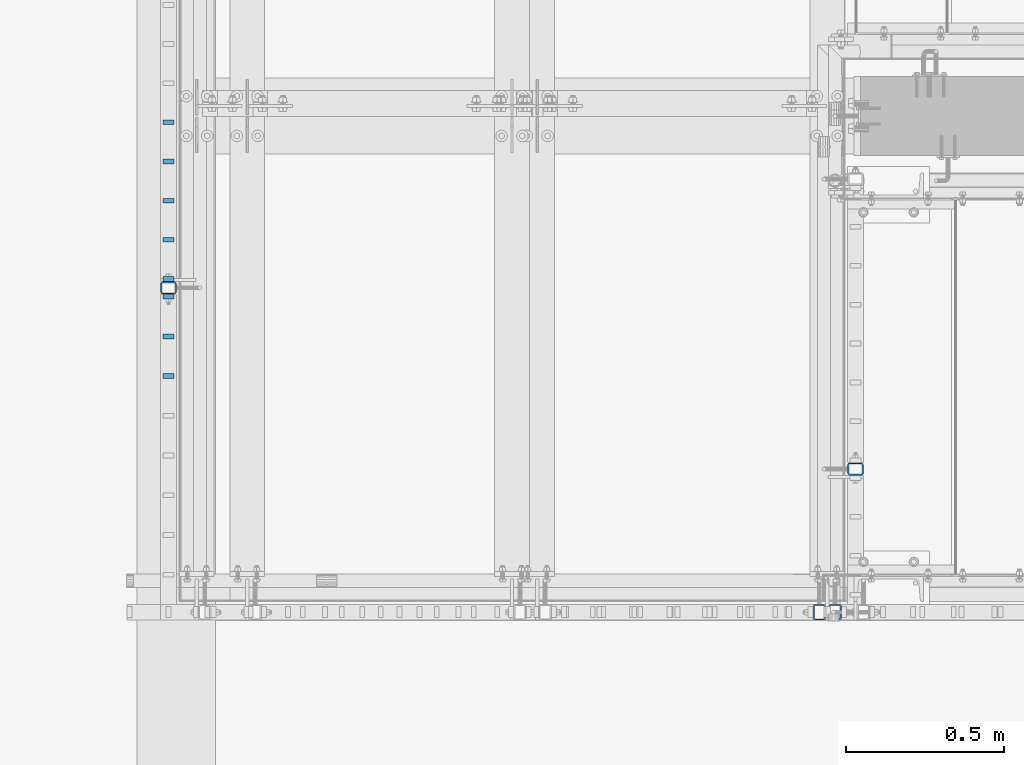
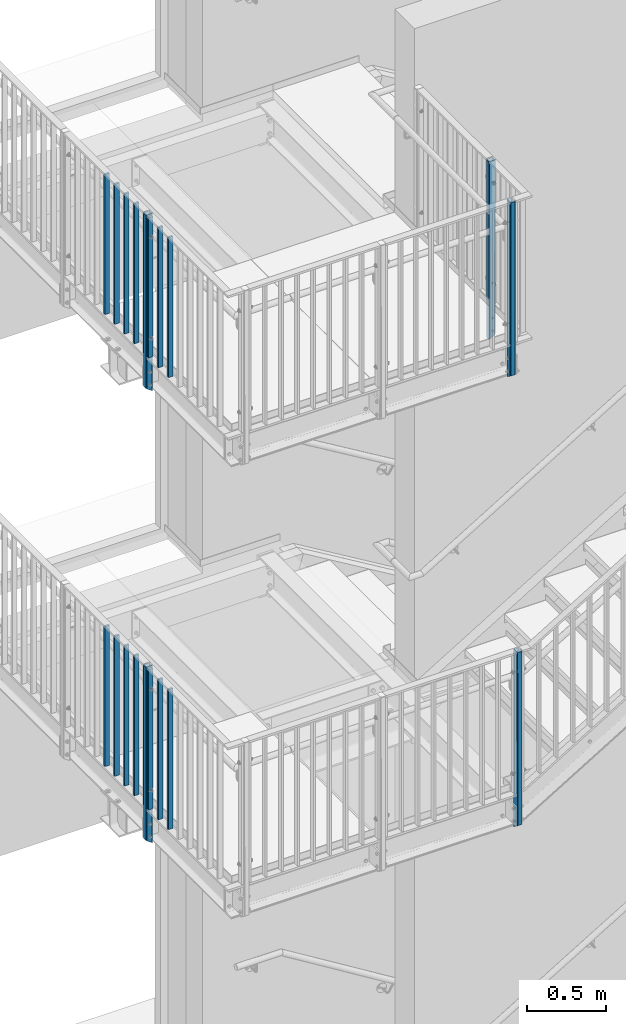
# One storey, part 3 of 410: 21 columns, 48 openings.
"""IFC2X3 building model written with IfcOpenShell, lengths in millimetres."""

from ifc_helpers import new_model, entity, si_unit, converted_unit, frame, frame_2d, origin, origin_with_axes, origin_2d, place, context, project, spatial, rectangle, hollow_rectangle, circle, extrude, clip, halfspace, material, element, save


model = new_model("IFC2X3")

# Units and contexts
model_context = context("Model", 3, precision=1e-09, world=origin_with_axes())
ifc_project = project(units=[si_unit("LENGTHUNIT", "METRE", prefix="MILLI"), si_unit("AREAUNIT", "SQUARE_METRE"), si_unit("VOLUMEUNIT", "CUBIC_METRE"), converted_unit("PLANEANGLEUNIT", "DEGREE", entity("IfcPlaneAngleMeasure", 0.01745329), si_unit("PLANEANGLEUNIT", "RADIAN"), dimensions=[0, 0, 0, 0, 0, 0, 0])], contexts=[model_context])

# Site, building, storey
site_placement = place(None, origin_with_axes())
site = spatial("IfcSite", under=ifc_project, at=site_placement, Name="mKR Teilneubau & Sanierung BA1 - Ostfildern", CompositionType="ELEMENT")
building_placement = place(site_placement, origin_with_axes())
building = spatial("IfcBuilding", under=site, at=building_placement, Name="Struktur 1", CompositionType="ELEMENT")
storey_placement = place(building_placement, origin_with_axes())
storey = spatial("IfcBuildingStorey", under=building, at=storey_placement, Name="Default Storey", CompositionType="ELEMENT", Elevation=0.0)

# Column, openings
ifc_material = material(Name="S235JR")
column_1_placement = place(None, frame((-3899.9485317, 16434.999999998, 8595.0), z_axis=(0.0, 0.0, 1.0), x_axis=(0.0, 1.0, 0.0)))
column_1 = element("IfcColumn", 1, at=column_1_placement, inside=storey, material=ifc_material, Name="-", ObjectType="-", context=model_context, shape_type="Clipping", body=[
    clip(extrude(hollow_rectangle(XDim=40.0, YDim=50.0, WallThickness=4.0, InnerFilletRadius=4.0, OuterFilletRadius=8.0, at=origin_2d()), origin(), (0.0, 0.0, -1.0), 1444.603221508), halfspace(frame((-16434.999999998, -6017.420426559, -5570.936734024), z_axis=(0.0, -0.573576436, 0.819152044), x_axis=(1.0, 0.0, 0.0)), True)),
])
opening_1_placement = place(column_1_placement, frame((-20.5, 0.0, -1265.0), z_axis=(1.0, 0.0, 0.0), x_axis=(0.0, 1.0, 0.0)))
element("IfcOpeningElement", 2, at=opening_1_placement, cuts=column_1, ObjectType="Opening", context=model_context, shape_type="SweptSolid", body=[
    extrude(circle(Radius=7.001, at=frame_2d((0.0, 50.0), x_axis=(1.0, 0.0))), origin(), (0.0, 0.0, 1.0), 5.0),
])
opening_2_placement = place(column_1_placement, frame((-20.5, 0.0, -1265.0), z_axis=(1.0, 0.0, 0.0), x_axis=(0.0, 1.0, 0.0)))
element("IfcOpeningElement", 3, at=opening_2_placement, cuts=column_1, ObjectType="Opening", context=model_context, shape_type="SweptSolid", body=[
    extrude(circle(Radius=7.001, at=frame_2d((0.0, -50.0), x_axis=(1.0, 0.0))), origin(), (0.0, 0.0, 1.0), 5.0),
])
opening_3_placement = place(column_1_placement, frame((15.5, 0.0, -1265.0), z_axis=(1.0, 0.0, 0.0), x_axis=(0.0, 1.0, 0.0)))
element("IfcOpeningElement", 4, at=opening_3_placement, cuts=column_1, ObjectType="Opening", context=model_context, shape_type="SweptSolid", body=[
    extrude(circle(Radius=7.001, at=frame_2d((0.0, 50.0), x_axis=(1.0, 0.0))), origin(), (0.0, 0.0, 1.0), 5.0),
])
opening_4_placement = place(column_1_placement, frame((15.5, 0.0, -1265.0), z_axis=(1.0, 0.0, 0.0), x_axis=(0.0, 1.0, 0.0)))
element("IfcOpeningElement", 5, at=opening_4_placement, cuts=column_1, ObjectType="Opening", context=model_context, shape_type="SweptSolid", body=[
    extrude(circle(Radius=7.001, at=frame_2d((0.0, -50.0), x_axis=(1.0, 0.0))), origin(), (0.0, 0.0, 1.0), 5.0),
])
opening_5_placement = place(column_1_placement, frame((15.5, -6.501, -945.0), z_axis=(-1.0, 0.0, 0.0), x_axis=(0.0, -1.0, 0.0)))
element("IfcOpeningElement", 6, at=opening_5_placement, cuts=column_1, ObjectType="Opening", context=model_context, shape_type="SweptSolid", body=[
    extrude(circle(Radius=6.501, at=frame_2d((-6.501, 0.0), x_axis=(1.0, 0.0))), origin(), (0.0, 0.0, -1.0), 5.0),
])
opening_6_placement = place(column_1_placement, frame((15.5, -6.501, -160.0), z_axis=(-1.0, 0.0, 0.0), x_axis=(0.0, -1.0, 0.0)))
element("IfcOpeningElement", 7, at=opening_6_placement, cuts=column_1, ObjectType="Opening", context=model_context, shape_type="SweptSolid", body=[
    extrude(circle(Radius=6.501, at=frame_2d((-6.501, 0.0), x_axis=(1.0, 0.0))), origin(), (0.0, 0.0, -1.0), 5.0),
])
opening_7_placement = place(column_1_placement, frame((-20.5, -6.501, -945.0), z_axis=(-1.0, 0.0, 0.0), x_axis=(0.0, -1.0, 0.0)))
element("IfcOpeningElement", 8, at=opening_7_placement, cuts=column_1, ObjectType="Opening", context=model_context, shape_type="SweptSolid", body=[
    extrude(circle(Radius=6.501, at=frame_2d((-6.501, 0.0), x_axis=(1.0, 0.0))), origin(), (0.0, 0.0, -1.0), 5.0),
])
opening_8_placement = place(column_1_placement, frame((-20.5, -6.501, -160.0), z_axis=(-1.0, 0.0, 0.0), x_axis=(0.0, -1.0, 0.0)))
element("IfcOpeningElement", 9, at=opening_8_placement, cuts=column_1, ObjectType="Opening", context=model_context, shape_type="SweptSolid", body=[
    extrude(circle(Radius=6.501, at=frame_2d((-6.501, 0.0), x_axis=(1.0, 0.0))), origin(), (0.0, 0.0, -1.0), 5.0),
])

column_2_placement = place(None, frame((-1834.998531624, 15405.999999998, 8595.0), z_axis=(0.0, 0.0, -1.0), x_axis=(1.0, 0.0, 0.0)))
column_2 = element("IfcColumn", 10, at=column_2_placement, inside=storey, material=ifc_material, Name="-", ObjectType="-", context=model_context, shape_type="Clipping", body=[
    clip(extrude(hollow_rectangle(XDim=40.0, YDim=50.0, WallThickness=4.0, InnerFilletRadius=4.0, OuterFilletRadius=8.0, at=origin_2d()), origin(), (0.0, 0.0, 1.0), 1444.603221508), halfspace(frame((1834.998531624, 6937.065481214, -3499.89195223), z_axis=(0.0, -0.573576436, -0.819152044), x_axis=(-1.0, 0.0, 0.0)), True)),
])
opening_9_placement = place(column_2_placement, frame((15.5, -7.001, 1215.0), z_axis=(-1.0, 0.0, 0.0), x_axis=(0.0, -1.0, 0.0)))
element("IfcOpeningElement", 11, at=opening_9_placement, cuts=column_2, ObjectType="Opening", context=model_context, shape_type="SweptSolid", body=[
    extrude(circle(Radius=7.001, at=frame_2d((-7.001, 0.0), x_axis=(1.0, 0.0))), origin(), (0.0, 0.0, -1.0), 5.0),
])
opening_10_placement = place(column_2_placement, frame((15.5, -7.001, 1315.0), z_axis=(-1.0, 0.0, 0.0), x_axis=(0.0, -1.0, 0.0)))
element("IfcOpeningElement", 12, at=opening_10_placement, cuts=column_2, ObjectType="Opening", context=model_context, shape_type="SweptSolid", body=[
    extrude(circle(Radius=7.001, at=frame_2d((-7.001, 0.0), x_axis=(1.0, 0.0))), origin(), (0.0, 0.0, -1.0), 5.0),
])
opening_11_placement = place(column_2_placement, frame((-20.5, -7.001, 1215.0), z_axis=(-1.0, 0.0, 0.0), x_axis=(0.0, -1.0, 0.0)))
element("IfcOpeningElement", 13, at=opening_11_placement, cuts=column_2, ObjectType="Opening", context=model_context, shape_type="SweptSolid", body=[
    extrude(circle(Radius=7.001, at=frame_2d((-7.001, 0.0), x_axis=(1.0, 0.0))), origin(), (0.0, 0.0, -1.0), 5.0),
])
opening_12_placement = place(column_2_placement, frame((-20.5, -7.001, 1315.0), z_axis=(-1.0, 0.0, 0.0), x_axis=(0.0, -1.0, 0.0)))
element("IfcOpeningElement", 14, at=opening_12_placement, cuts=column_2, ObjectType="Opening", context=model_context, shape_type="SweptSolid", body=[
    extrude(circle(Radius=7.001, at=frame_2d((-7.001, 0.0), x_axis=(1.0, 0.0))), origin(), (0.0, 0.0, -1.0), 5.0),
])
opening_13_placement = place(column_2_placement, frame((-20.5, 0.0, 0.0), z_axis=(1.0, 0.0, 0.0), x_axis=(0.0, 1.0, 0.0)))
element("IfcOpeningElement", 15, at=opening_13_placement, cuts=column_2, ObjectType="Opening", context=model_context, shape_type="SweptSolid", body=[
    extrude(circle(Radius=6.501, at=frame_2d((0.0, 945.0), x_axis=(1.0, 0.0))), origin(), (0.0, 0.0, 1.0), 5.0),
])
opening_14_placement = place(column_2_placement, frame((-20.5, 0.0, 0.0), z_axis=(1.0, 0.0, 0.0), x_axis=(0.0, 1.0, 0.0)))
element("IfcOpeningElement", 16, at=opening_14_placement, cuts=column_2, ObjectType="Opening", context=model_context, shape_type="SweptSolid", body=[
    extrude(circle(Radius=6.501, at=frame_2d((0.0, 160.0), x_axis=(1.0, 0.0))), origin(), (0.0, 0.0, 1.0), 5.0),
])
opening_15_placement = place(column_2_placement, frame((15.5, 0.0, 0.0), z_axis=(1.0, 0.0, 0.0), x_axis=(0.0, 1.0, 0.0)))
element("IfcOpeningElement", 17, at=opening_15_placement, cuts=column_2, ObjectType="Opening", context=model_context, shape_type="SweptSolid", body=[
    extrude(circle(Radius=6.501, at=frame_2d((0.0, 945.0), x_axis=(1.0, 0.0))), origin(), (0.0, 0.0, 1.0), 5.0),
])
opening_16_placement = place(column_2_placement, frame((15.5, 0.0, 0.0), z_axis=(1.0, 0.0, 0.0), x_axis=(0.0, 1.0, 0.0)))
element("IfcOpeningElement", 18, at=opening_16_placement, cuts=column_2, ObjectType="Opening", context=model_context, shape_type="SweptSolid", body=[
    extrude(circle(Radius=6.501, at=frame_2d((0.0, 160.0), x_axis=(1.0, 0.0))), origin(), (0.0, 0.0, 1.0), 5.0),
])

column_3_placement = place(None, frame((-1720.0485317, 15860.0, 8595.0), z_axis=(0.0, 0.0, 1.0), x_axis=(0.0, -1.0, 0.0)))
column_3 = element("IfcColumn", 19, at=column_3_placement, inside=storey, material=ifc_material, Name="-", ObjectType="-", context=model_context, shape_type="Clipping", body=[
    clip(extrude(hollow_rectangle(XDim=40.0, YDim=50.0, WallThickness=4.0, InnerFilletRadius=4.0, OuterFilletRadius=8.0, at=origin_2d()), origin(), (0.0, 0.0, -1.0), 1444.603221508), halfspace(frame((15860.0, -2246.345794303, -2930.401849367), z_axis=(0.0, -0.573576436, 0.819152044), x_axis=(1.0, 0.0, 0.0)), True)),
])
opening_17_placement = place(column_3_placement, frame((-20.5, 0.0, -1265.0), z_axis=(1.0, 0.0, 0.0), x_axis=(0.0, 1.0, 0.0)))
element("IfcOpeningElement", 20, at=opening_17_placement, cuts=column_3, ObjectType="Opening", context=model_context, shape_type="SweptSolid", body=[
    extrude(circle(Radius=7.001, at=frame_2d((0.0, 50.0), x_axis=(1.0, 0.0))), origin(), (0.0, 0.0, 1.0), 5.0),
])
opening_18_placement = place(column_3_placement, frame((-20.5, 0.0, -1265.0), z_axis=(1.0, 0.0, 0.0), x_axis=(0.0, 1.0, 0.0)))
element("IfcOpeningElement", 21, at=opening_18_placement, cuts=column_3, ObjectType="Opening", context=model_context, shape_type="SweptSolid", body=[
    extrude(circle(Radius=7.001, at=frame_2d((0.0, -50.0), x_axis=(1.0, 0.0))), origin(), (0.0, 0.0, 1.0), 5.0),
])
opening_19_placement = place(column_3_placement, frame((15.5, 0.0, -1265.0), z_axis=(1.0, 0.0, 0.0), x_axis=(0.0, 1.0, 0.0)))
element("IfcOpeningElement", 22, at=opening_19_placement, cuts=column_3, ObjectType="Opening", context=model_context, shape_type="SweptSolid", body=[
    extrude(circle(Radius=7.001, at=frame_2d((0.0, 50.0), x_axis=(1.0, 0.0))), origin(), (0.0, 0.0, 1.0), 5.0),
])
opening_20_placement = place(column_3_placement, frame((15.5, 0.0, -1265.0), z_axis=(1.0, 0.0, 0.0), x_axis=(0.0, 1.0, 0.0)))
element("IfcOpeningElement", 23, at=opening_20_placement, cuts=column_3, ObjectType="Opening", context=model_context, shape_type="SweptSolid", body=[
    extrude(circle(Radius=7.001, at=frame_2d((0.0, -50.0), x_axis=(1.0, 0.0))), origin(), (0.0, 0.0, 1.0), 5.0),
])
opening_21_placement = place(column_3_placement, frame((15.5, -6.501, -945.0), z_axis=(-1.0, 0.0, 0.0), x_axis=(0.0, -1.0, 0.0)))
element("IfcOpeningElement", 24, at=opening_21_placement, cuts=column_3, ObjectType="Opening", context=model_context, shape_type="SweptSolid", body=[
    extrude(circle(Radius=6.501, at=frame_2d((-6.501, 0.0), x_axis=(1.0, 0.0))), origin(), (0.0, 0.0, -1.0), 5.0),
])
opening_22_placement = place(column_3_placement, frame((15.5, -6.501, -160.0), z_axis=(-1.0, 0.0, 0.0), x_axis=(0.0, -1.0, 0.0)))
element("IfcOpeningElement", 25, at=opening_22_placement, cuts=column_3, ObjectType="Opening", context=model_context, shape_type="SweptSolid", body=[
    extrude(circle(Radius=6.501, at=frame_2d((-6.501, 0.0), x_axis=(1.0, 0.0))), origin(), (0.0, 0.0, -1.0), 5.0),
])
opening_23_placement = place(column_3_placement, frame((-20.5, -6.501, -945.0), z_axis=(-1.0, 0.0, 0.0), x_axis=(0.0, -1.0, 0.0)))
element("IfcOpeningElement", 26, at=opening_23_placement, cuts=column_3, ObjectType="Opening", context=model_context, shape_type="SweptSolid", body=[
    extrude(circle(Radius=6.501, at=frame_2d((-6.501, 0.0), x_axis=(1.0, 0.0))), origin(), (0.0, 0.0, -1.0), 5.0),
])
opening_24_placement = place(column_3_placement, frame((-20.5, -6.501, -160.0), z_axis=(-1.0, 0.0, 0.0), x_axis=(0.0, -1.0, 0.0)))
element("IfcOpeningElement", 27, at=opening_24_placement, cuts=column_3, ObjectType="Opening", context=model_context, shape_type="SweptSolid", body=[
    extrude(circle(Radius=6.501, at=frame_2d((-6.501, 0.0), x_axis=(1.0, 0.0))), origin(), (0.0, 0.0, -1.0), 5.0),
])

column_4_placement = place(None, frame((-1784.99853167, 15405.999999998, 5095.0), z_axis=(0.0, 0.0, 1.0), x_axis=(-1.0, 0.0, 0.0)))
column_4 = element("IfcColumn", 28, at=column_4_placement, inside=storey, material=ifc_material, Name="-", ObjectType="-", context=model_context, shape_type="Clipping", body=[
    clip(extrude(hollow_rectangle(XDim=40.0, YDim=50.0, WallThickness=4.0, InnerFilletRadius=4.0, OuterFilletRadius=8.0, at=origin_2d()), origin(), (0.0, 0.0, -1.0), 1444.603221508), halfspace(frame((-1784.99853167, 8581.527567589, 4651.356701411), z_axis=(0.0, -0.573576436, 0.819152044), x_axis=(1.0, 0.0, 0.0)), True)),
])
opening_25_placement = place(column_4_placement, frame((-20.5, 0.0, -1265.0), z_axis=(1.0, 0.0, 0.0), x_axis=(0.0, 1.0, 0.0)))
element("IfcOpeningElement", 29, at=opening_25_placement, cuts=column_4, ObjectType="Opening", context=model_context, shape_type="SweptSolid", body=[
    extrude(circle(Radius=7.001, at=frame_2d((0.0, 50.0), x_axis=(1.0, 0.0))), origin(), (0.0, 0.0, 1.0), 5.0),
])
opening_26_placement = place(column_4_placement, frame((-20.5, 0.0, -1265.0), z_axis=(1.0, 0.0, 0.0), x_axis=(0.0, 1.0, 0.0)))
element("IfcOpeningElement", 30, at=opening_26_placement, cuts=column_4, ObjectType="Opening", context=model_context, shape_type="SweptSolid", body=[
    extrude(circle(Radius=7.001, at=frame_2d((0.0, -50.0), x_axis=(1.0, 0.0))), origin(), (0.0, 0.0, 1.0), 5.0),
])
opening_27_placement = place(column_4_placement, frame((15.5, 0.0, -1265.0), z_axis=(1.0, 0.0, 0.0), x_axis=(0.0, 1.0, 0.0)))
element("IfcOpeningElement", 31, at=opening_27_placement, cuts=column_4, ObjectType="Opening", context=model_context, shape_type="SweptSolid", body=[
    extrude(circle(Radius=7.001, at=frame_2d((0.0, 50.0), x_axis=(1.0, 0.0))), origin(), (0.0, 0.0, 1.0), 5.0),
])
opening_28_placement = place(column_4_placement, frame((15.5, 0.0, -1265.0), z_axis=(1.0, 0.0, 0.0), x_axis=(0.0, 1.0, 0.0)))
element("IfcOpeningElement", 32, at=opening_28_placement, cuts=column_4, ObjectType="Opening", context=model_context, shape_type="SweptSolid", body=[
    extrude(circle(Radius=7.001, at=frame_2d((0.0, -50.0), x_axis=(1.0, 0.0))), origin(), (0.0, 0.0, 1.0), 5.0),
])
opening_29_placement = place(column_4_placement, frame((15.5, -6.501, -945.0), z_axis=(-1.0, 0.0, 0.0), x_axis=(0.0, -1.0, 0.0)))
element("IfcOpeningElement", 33, at=opening_29_placement, cuts=column_4, ObjectType="Opening", context=model_context, shape_type="SweptSolid", body=[
    extrude(circle(Radius=6.501, at=frame_2d((-6.501, 0.0), x_axis=(1.0, 0.0))), origin(), (0.0, 0.0, -1.0), 5.0),
])
opening_30_placement = place(column_4_placement, frame((15.5, -6.501, -160.0), z_axis=(-1.0, 0.0, 0.0), x_axis=(0.0, -1.0, 0.0)))
element("IfcOpeningElement", 34, at=opening_30_placement, cuts=column_4, ObjectType="Opening", context=model_context, shape_type="SweptSolid", body=[
    extrude(circle(Radius=6.501, at=frame_2d((-6.501, 0.0), x_axis=(1.0, 0.0))), origin(), (0.0, 0.0, -1.0), 5.0),
])
opening_31_placement = place(column_4_placement, frame((-20.5, -6.501, -945.0), z_axis=(-1.0, 0.0, 0.0), x_axis=(0.0, -1.0, 0.0)))
element("IfcOpeningElement", 35, at=opening_31_placement, cuts=column_4, ObjectType="Opening", context=model_context, shape_type="SweptSolid", body=[
    extrude(circle(Radius=6.501, at=frame_2d((-6.501, 0.0), x_axis=(1.0, 0.0))), origin(), (0.0, 0.0, -1.0), 5.0),
])
opening_32_placement = place(column_4_placement, frame((-20.5, -6.501, -160.0), z_axis=(-1.0, 0.0, 0.0), x_axis=(0.0, -1.0, 0.0)))
element("IfcOpeningElement", 36, at=opening_32_placement, cuts=column_4, ObjectType="Opening", context=model_context, shape_type="SweptSolid", body=[
    extrude(circle(Radius=6.501, at=frame_2d((-6.501, 0.0), x_axis=(1.0, 0.0))), origin(), (0.0, 0.0, -1.0), 5.0),
])

# Column
column_5_placement = place(None, frame((-3899.9485317, 16280.999999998, 4000.000000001), z_axis=(0.0, 0.0, -1.0), x_axis=(0.0, -1.0, 0.0)))
element("IfcColumn", 37, at=column_5_placement, inside=storey, material=ifc_material, Name="-", ObjectType="-", context=model_context, shape_type="SweptSolid", body=[
    extrude(rectangle(XDim=15.0, YDim=35.0, at=origin_2d()), origin(), (0.0, 0.0, -1.0), 1085.000007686),
])

# Column, openings
column_6_placement = place(None, frame((-3899.9485317, 16462.999999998, 5085.000007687), z_axis=(0.0, 0.0, 1.0), x_axis=(0.0, 1.0, 0.0)))
column_6 = element("IfcColumn", 38, at=column_6_placement, inside=storey, material=ifc_material, Name="-", ObjectType="-", context=model_context, shape_type="SweptSolid", body=[
    extrude(rectangle(XDim=15.0, YDim=35.0, at=origin_2d()), origin(), (0.0, 0.0, -1.0), 1085.000007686),
])
opening_33_placement = place(column_6_placement, frame((-8.0, -6.001, -935.000007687), z_axis=(-1.0, 0.0, 0.0), x_axis=(0.0, -1.0, 0.0)))
element("IfcOpeningElement", 39, at=opening_33_placement, cuts=column_6, ObjectType="Opening", context=model_context, shape_type="SweptSolid", body=[
    extrude(circle(Radius=6.001, at=frame_2d((-6.001, 0.0), x_axis=(1.0, 0.0))), origin(), (0.0, 0.0, -1.0), 16.0),
])
opening_34_placement = place(column_6_placement, frame((-8.0, -6.001, -150.000007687), z_axis=(-1.0, 0.0, 0.0), x_axis=(0.0, -1.0, 0.0)))
element("IfcOpeningElement", 40, at=opening_34_placement, cuts=column_6, ObjectType="Opening", context=model_context, shape_type="SweptSolid", body=[
    extrude(circle(Radius=6.001, at=frame_2d((-6.001, 0.0), x_axis=(1.0, 0.0))), origin(), (0.0, 0.0, -1.0), 16.0),
])

# Columns
for number, where, z_axis, x_axis in (
    (41, (-3899.9485317, 16959.999999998, 4000.000000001), (0.0, 0.0, -1.0), (0.0, -1.0, 0.0)),
    (42, (-3899.9485317, 16835.749999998, 4000.000000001), (0.0, 0.0, -1.0), (0.0, -1.0, 0.0)),
    (43, (-3899.9485317, 16711.499999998, 4000.000000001), (0.0, 0.0, -1.0), (0.0, -1.0, 0.0)),
    (44, (-3899.9485317, 16587.249999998, 4000.000000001), (0.0, 0.0, -1.0), (0.0, -1.0, 0.0)),
    (45, (-3899.9485317, 16154.999999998, 4000.000000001), (0.0, 0.0, -1.0), (0.0, -1.0, 0.0)),
):
    element("IfcColumn", number, at=place(None, frame(where, z_axis=z_axis, x_axis=x_axis)), inside=storey, material=ifc_material, Name="-", ObjectType="-", context=model_context, shape_type="SweptSolid", body=[
        extrude(rectangle(XDim=15.0, YDim=35.0, at=origin_2d()), origin(), (0.0, 0.0, -1.0), 1085.000007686),
    ])

# Column, openings
column_7_placement = place(None, frame((-3899.9485317, 16406.999999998, 7500.000000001), z_axis=(0.0, 0.0, -1.0), x_axis=(0.0, -1.0, 0.0)))
column_7 = element("IfcColumn", 46, at=column_7_placement, inside=storey, material=ifc_material, Name="-", ObjectType="-", context=model_context, shape_type="SweptSolid", body=[
    extrude(rectangle(XDim=15.0, YDim=35.0, at=origin_2d()), origin(), (0.0, 0.0, -1.0), 1085.000007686),
])
opening_35_placement = place(column_7_placement, frame((8.0, -6.001, -149.999999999), z_axis=(1.0, 0.0, 0.0), x_axis=(0.0, 1.0, 0.0)))
element("IfcOpeningElement", 47, at=opening_35_placement, cuts=column_7, ObjectType="Opening", context=model_context, shape_type="SweptSolid", body=[
    extrude(circle(Radius=6.001, at=frame_2d((6.001, 0.0), x_axis=(1.0, 0.0))), origin(), (0.0, 0.0, -1.0), 16.0),
])
opening_36_placement = place(column_7_placement, frame((8.0, -6.001, -934.999999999), z_axis=(1.0, 0.0, 0.0), x_axis=(0.0, 1.0, 0.0)))
element("IfcOpeningElement", 48, at=opening_36_placement, cuts=column_7, ObjectType="Opening", context=model_context, shape_type="SweptSolid", body=[
    extrude(circle(Radius=6.001, at=frame_2d((6.001, 0.0), x_axis=(1.0, 0.0))), origin(), (0.0, 0.0, -1.0), 16.0),
])

column_8_placement = place(None, frame((-3899.9485317, 16462.999999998, 8585.000007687), z_axis=(0.0, 0.0, 1.0), x_axis=(0.0, 1.0, 0.0)))
column_8 = element("IfcColumn", 49, at=column_8_placement, inside=storey, material=ifc_material, Name="-", ObjectType="-", context=model_context, shape_type="SweptSolid", body=[
    extrude(rectangle(XDim=15.0, YDim=35.0, at=origin_2d()), origin(), (0.0, 0.0, -1.0), 1085.000007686),
])
opening_37_placement = place(column_8_placement, frame((-8.0, -6.001, -935.000007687), z_axis=(-1.0, 0.0, 0.0), x_axis=(0.0, -1.0, 0.0)))
element("IfcOpeningElement", 50, at=opening_37_placement, cuts=column_8, ObjectType="Opening", context=model_context, shape_type="SweptSolid", body=[
    extrude(circle(Radius=6.001, at=frame_2d((-6.001, 0.0), x_axis=(1.0, 0.0))), origin(), (0.0, 0.0, -1.0), 16.0),
])
opening_38_placement = place(column_8_placement, frame((-8.0, -6.001, -150.000007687), z_axis=(-1.0, 0.0, 0.0), x_axis=(0.0, -1.0, 0.0)))
element("IfcOpeningElement", 51, at=opening_38_placement, cuts=column_8, ObjectType="Opening", context=model_context, shape_type="SweptSolid", body=[
    extrude(circle(Radius=6.001, at=frame_2d((-6.001, 0.0), x_axis=(1.0, 0.0))), origin(), (0.0, 0.0, -1.0), 16.0),
])

# Columns
for number, where, z_axis, x_axis in (
    (52, (-3899.9485317, 16959.999999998, 7500.000000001), (0.0, 0.0, -1.0), (0.0, -1.0, 0.0)),
    (53, (-3899.9485317, 16835.749999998, 7500.000000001), (0.0, 0.0, -1.0), (0.0, -1.0, 0.0)),
    (54, (-3899.9485317, 16711.499999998, 7500.000000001), (0.0, 0.0, -1.0), (0.0, -1.0, 0.0)),
    (55, (-3899.9485317, 16587.249999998, 7500.000000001), (0.0, 0.0, -1.0), (0.0, -1.0, 0.0)),
    (56, (-3899.9485317, 16154.999999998, 7500.000000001), (0.0, 0.0, -1.0), (0.0, -1.0, 0.0)),
    (57, (-3899.9485317, 16280.999999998, 7500.000000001), (0.0, 0.0, -1.0), (0.0, -1.0, 0.0)),
):
    element("IfcColumn", number, at=place(None, frame(where, z_axis=z_axis, x_axis=x_axis)), inside=storey, material=ifc_material, Name="-", ObjectType="-", context=model_context, shape_type="SweptSolid", body=[
        extrude(rectangle(XDim=15.0, YDim=35.0, at=origin_2d()), origin(), (0.0, 0.0, -1.0), 1085.000007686),
    ])

# Column, openings
column_9_placement = place(None, frame((-3899.9485317, 16434.999999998, 5095.0), z_axis=(0.0, 0.0, 1.0), x_axis=(0.0, 1.0, 0.0)))
column_9 = element("IfcColumn", 58, at=column_9_placement, inside=storey, material=ifc_material, Name="-", ObjectType="-", context=model_context, shape_type="Clipping", body=[
    clip(extrude(hollow_rectangle(XDim=40.0, YDim=50.0, WallThickness=4.0, InnerFilletRadius=4.0, OuterFilletRadius=8.0, at=origin_2d()), origin(), (0.0, 0.0, -1.0), 1444.603221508), halfspace(frame((-16434.999999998, -4372.958340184, -4419.471984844), z_axis=(0.0, -0.573576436, 0.819152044), x_axis=(1.0, 0.0, 0.0)), True)),
])
opening_39_placement = place(column_9_placement, frame((-20.5, 0.0, -1265.0), z_axis=(1.0, 0.0, 0.0), x_axis=(0.0, 1.0, 0.0)))
element("IfcOpeningElement", 59, at=opening_39_placement, cuts=column_9, ObjectType="Opening", context=model_context, shape_type="SweptSolid", body=[
    extrude(circle(Radius=7.001, at=frame_2d((0.0, 50.0), x_axis=(1.0, 0.0))), origin(), (0.0, 0.0, 1.0), 5.0),
])
opening_40_placement = place(column_9_placement, frame((-20.5, 0.0, -1265.0), z_axis=(1.0, 0.0, 0.0), x_axis=(0.0, 1.0, 0.0)))
element("IfcOpeningElement", 60, at=opening_40_placement, cuts=column_9, ObjectType="Opening", context=model_context, shape_type="SweptSolid", body=[
    extrude(circle(Radius=7.001, at=frame_2d((0.0, -50.0), x_axis=(1.0, 0.0))), origin(), (0.0, 0.0, 1.0), 5.0),
])
opening_41_placement = place(column_9_placement, frame((15.5, 0.0, -1265.0), z_axis=(1.0, 0.0, 0.0), x_axis=(0.0, 1.0, 0.0)))
element("IfcOpeningElement", 61, at=opening_41_placement, cuts=column_9, ObjectType="Opening", context=model_context, shape_type="SweptSolid", body=[
    extrude(circle(Radius=7.001, at=frame_2d((0.0, 50.0), x_axis=(1.0, 0.0))), origin(), (0.0, 0.0, 1.0), 5.0),
])
opening_42_placement = place(column_9_placement, frame((15.5, 0.0, -1265.0), z_axis=(1.0, 0.0, 0.0), x_axis=(0.0, 1.0, 0.0)))
element("IfcOpeningElement", 62, at=opening_42_placement, cuts=column_9, ObjectType="Opening", context=model_context, shape_type="SweptSolid", body=[
    extrude(circle(Radius=7.001, at=frame_2d((0.0, -50.0), x_axis=(1.0, 0.0))), origin(), (0.0, 0.0, 1.0), 5.0),
])
opening_43_placement = place(column_9_placement, frame((15.5, -6.501, -945.0), z_axis=(-1.0, 0.0, 0.0), x_axis=(0.0, -1.0, 0.0)))
element("IfcOpeningElement", 63, at=opening_43_placement, cuts=column_9, ObjectType="Opening", context=model_context, shape_type="SweptSolid", body=[
    extrude(circle(Radius=6.501, at=frame_2d((-6.501, 0.0), x_axis=(1.0, 0.0))), origin(), (0.0, 0.0, -1.0), 5.0),
])
opening_44_placement = place(column_9_placement, frame((15.5, -6.501, -160.0), z_axis=(-1.0, 0.0, 0.0), x_axis=(0.0, -1.0, 0.0)))
element("IfcOpeningElement", 64, at=opening_44_placement, cuts=column_9, ObjectType="Opening", context=model_context, shape_type="SweptSolid", body=[
    extrude(circle(Radius=6.501, at=frame_2d((-6.501, 0.0), x_axis=(1.0, 0.0))), origin(), (0.0, 0.0, -1.0), 5.0),
])
opening_45_placement = place(column_9_placement, frame((-20.5, -6.501, -945.0), z_axis=(-1.0, 0.0, 0.0), x_axis=(0.0, -1.0, 0.0)))
element("IfcOpeningElement", 65, at=opening_45_placement, cuts=column_9, ObjectType="Opening", context=model_context, shape_type="SweptSolid", body=[
    extrude(circle(Radius=6.501, at=frame_2d((-6.501, 0.0), x_axis=(1.0, 0.0))), origin(), (0.0, 0.0, -1.0), 5.0),
])
opening_46_placement = place(column_9_placement, frame((-20.5, -6.501, -160.0), z_axis=(-1.0, 0.0, 0.0), x_axis=(0.0, -1.0, 0.0)))
element("IfcOpeningElement", 66, at=opening_46_placement, cuts=column_9, ObjectType="Opening", context=model_context, shape_type="SweptSolid", body=[
    extrude(circle(Radius=6.501, at=frame_2d((-6.501, 0.0), x_axis=(1.0, 0.0))), origin(), (0.0, 0.0, -1.0), 5.0),
])

column_10_placement = place(None, frame((-3899.9485317, 16406.999999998, 4000.000000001), z_axis=(0.0, 0.0, -1.0), x_axis=(0.0, -1.0, 0.0)))
column_10 = element("IfcColumn", 67, at=column_10_placement, inside=storey, material=ifc_material, Name="-", ObjectType="-", context=model_context, shape_type="SweptSolid", body=[
    extrude(rectangle(XDim=15.0, YDim=35.0, at=origin_2d()), origin(), (0.0, 0.0, -1.0), 1085.000007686),
])
opening_47_placement = place(column_10_placement, frame((8.0, -6.001, -149.999999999), z_axis=(1.0, 0.0, 0.0), x_axis=(0.0, 1.0, 0.0)))
element("IfcOpeningElement", 68, at=opening_47_placement, cuts=column_10, ObjectType="Opening", context=model_context, shape_type="SweptSolid", body=[
    extrude(circle(Radius=6.001, at=frame_2d((6.001, 0.0), x_axis=(1.0, 0.0))), origin(), (0.0, 0.0, -1.0), 16.0),
])
opening_48_placement = place(column_10_placement, frame((8.0, -6.001, -934.999999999), z_axis=(1.0, 0.0, 0.0), x_axis=(0.0, 1.0, 0.0)))
element("IfcOpeningElement", 69, at=opening_48_placement, cuts=column_10, ObjectType="Opening", context=model_context, shape_type="SweptSolid", body=[
    extrude(circle(Radius=6.001, at=frame_2d((6.001, 0.0), x_axis=(1.0, 0.0))), origin(), (0.0, 0.0, -1.0), 16.0),
])

save(model, "model.ifc")
